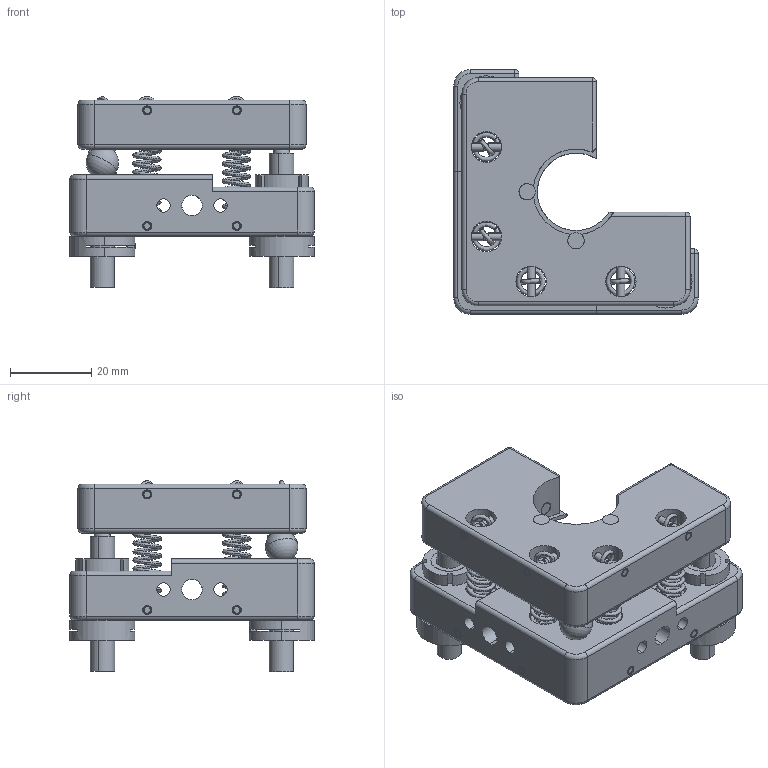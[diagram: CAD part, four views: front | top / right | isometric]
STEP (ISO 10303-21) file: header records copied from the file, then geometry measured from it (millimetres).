
FILE_DESCRIPTION (( 'STEP AP203' ), '1' );
FILE_NAME ('7MM1620謗峎覃淕噩殤.STEP', '2019-10-22T06:00:17', ( '' ), ( '' ), 'SwSTEP 2.0', 'SolidWorks 2014', '' );
FILE_SCHEMA (( 'CONFIG_CONTROL_DESIGN' ));
Length unit declared in the file: millimetre
Products named in the file (1): 7MM1620謗峎覃淕噩殤
Bounding box: 60 x 60 x 46.92 mm (x, y, z)
Surface area: 24140.4 mm2 (no closed solid volume)
Topology: 0 solids, 40 shells, 386 faces, 1075 edges, 670 vertices
Faces by surface type: cylinder 176, plane 94, torus 44, bspline 36, cone 20, sphere 16
Entity records: 24240 total; most frequent: CARTESIAN_POINT 14547, DIRECTION 2123, ORIENTED_EDGE 1830, EDGE_CURVE 1026, AXIS2_PLACEMENT_3D 859, VERTEX_POINT 661, CIRCLE 508, EDGE_LOOP 458
